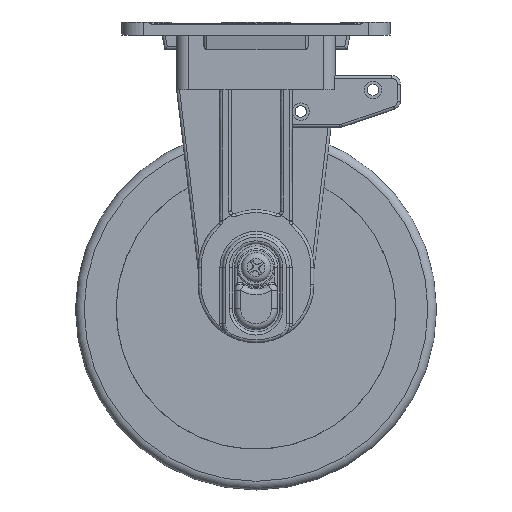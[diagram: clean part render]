
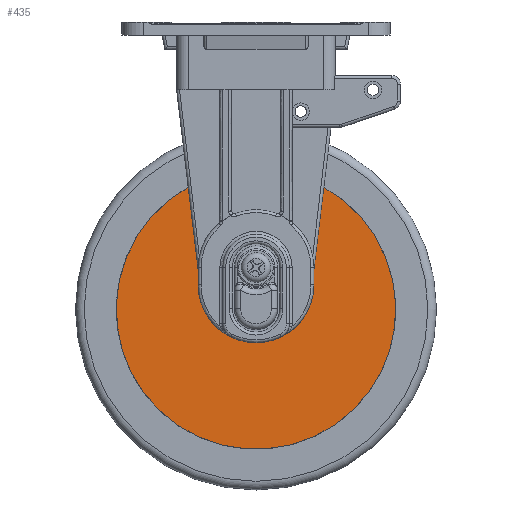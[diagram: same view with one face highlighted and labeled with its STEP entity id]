
A CAD part, front view. The second image highlights one B-rep face of the part: STEP entity #435.
In plain terms, the highlighted planar face has unit normal (0, -1, 0).
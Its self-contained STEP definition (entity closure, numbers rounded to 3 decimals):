
#357=CARTESIAN_POINT('',(-95.837,101.174,-177.965));
#358=VERTEX_POINT('',#357);
#367=CARTESIAN_POINT('',(-142.763,101.174,-177.965));
#368=VERTEX_POINT('',#367);
#369=CARTESIAN_POINT('',(-119.3,101.174,-220.263));
#370=DIRECTION('',(0.0,-1.0,0.0));
#371=DIRECTION('',(1.0,0.0,0.0));
#372=AXIS2_PLACEMENT_3D('',#369,#370,#371);
#373=CIRCLE('',#372,48.37);
#374=EDGE_CURVE('',#368,#358,#373,.T.);
#394=CARTESIAN_POINT('',(-172.507,101.174,-167.056));
#395=DIRECTION('',(0.0,-1.0,0.0));
#396=DIRECTION('',(0.0,0.0,-1.0));
#397=AXIS2_PLACEMENT_3D('',#394,#395,#396);
#398=PLANE('',#397);
#399=CARTESIAN_POINT('',(-96.272,101.174,-181.603));
#400=VERTEX_POINT('',#399);
#401=CARTESIAN_POINT('',(-96.272,101.174,-181.603));
#402=DIRECTION('',(0.119,0.0,0.993));
#403=VECTOR('',#402,3.664);
#404=LINE('',#401,#403);
#405=EDGE_CURVE('',#400,#358,#404,.T.);
#406=ORIENTED_EDGE('',*,*,#405,.F.);
#407=CARTESIAN_POINT('',(-142.328,101.174,-181.603));
#408=VERTEX_POINT('',#407);
#409=CARTESIAN_POINT('',(-142.328,101.174,-181.603));
#410=DIRECTION('',(1.0,0.0,0.0));
#411=VECTOR('',#410,46.056);
#412=LINE('',#409,#411);
#413=EDGE_CURVE('',#408,#400,#412,.T.);
#414=ORIENTED_EDGE('',*,*,#413,.F.);
#415=CARTESIAN_POINT('',(-142.763,101.174,-177.965));
#416=DIRECTION('',(0.119,0.0,-0.993));
#417=VECTOR('',#416,3.664);
#418=LINE('',#415,#417);
#419=EDGE_CURVE('',#368,#408,#418,.T.);
#420=ORIENTED_EDGE('',*,*,#419,.F.);
#421=ORIENTED_EDGE('',*,*,#374,.T.);
#422=EDGE_LOOP('',(#406,#414,#420,#421));
#423=FACE_OUTER_BOUND('',#422,.T.);
#424=CARTESIAN_POINT('',(-122.553,101.174,-208.004));
#425=VERTEX_POINT('',#424);
#426=CARTESIAN_POINT('',(-119.3,101.174,-205.763));
#427=DIRECTION('',(0.0,-1.,0.0));
#428=DIRECTION('',(0.823,0.0,0.567));
#429=AXIS2_PLACEMENT_3D('',#426,#427,#428);
#430=CIRCLE('',#429,3.95);
#431=EDGE_CURVE('',#425,#425,#430,.T.);
#432=ORIENTED_EDGE('',*,*,#431,.F.);
#433=EDGE_LOOP('',(#432));
#434=FACE_BOUND('',#433,.T.);
#435=ADVANCED_FACE('',(#423,#434),#398,.T.);
